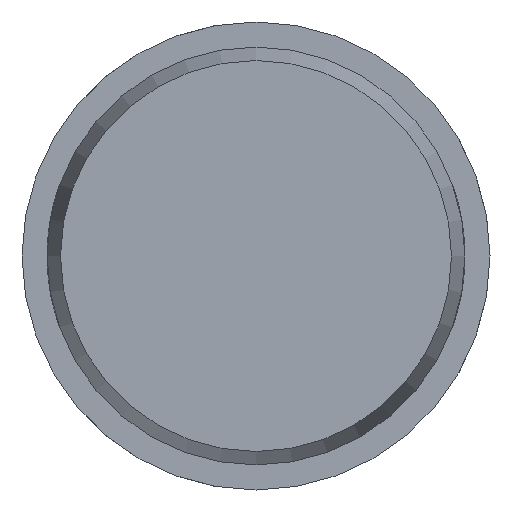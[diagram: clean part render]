
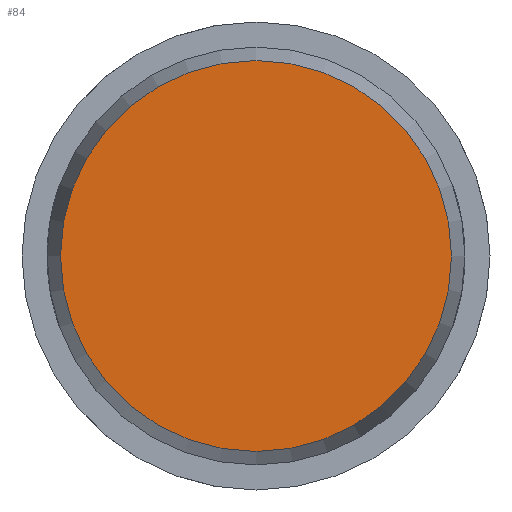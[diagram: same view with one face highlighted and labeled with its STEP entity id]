
A CAD part, left-side view. The second image highlights one B-rep face of the part: STEP entity #84.
In plain terms, the highlighted planar face has unit normal (-1, 0, 0).
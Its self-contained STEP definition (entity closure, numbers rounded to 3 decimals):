
#84 = ADVANCED_FACE( '', ( #132 ), #133, .F. );
#132 = FACE_OUTER_BOUND( '', #211, .T. );
#133 = PLANE( '', #212 );
#211 = EDGE_LOOP( '', ( #330 ) );
#212 = AXIS2_PLACEMENT_3D( '', #331, #332, #333 );
#330 = ORIENTED_EDGE( '', *, *, #492, .F. );
#331 = CARTESIAN_POINT( '', ( 0., 0., 0. ) );
#332 = DIRECTION( '', ( 1., 0., 0. ) );
#333 = DIRECTION( '', ( 0., 0., -1. ) );
#492 = EDGE_CURVE( '', #570, #570, #571, .T. );
#570 = VERTEX_POINT( '', #932 );
#571 = CIRCLE( '', #933, 11.696 );
#932 = CARTESIAN_POINT( '', ( 0., 0., -11.696 ) );
#933 = AXIS2_PLACEMENT_3D( '', #1016, #1017, #1018 );
#1016 = CARTESIAN_POINT( '', ( 0., 0., 0. ) );
#1017 = DIRECTION( '', ( 1., 0., 0. ) );
#1018 = DIRECTION( '', ( 0., 0., -1. ) );
